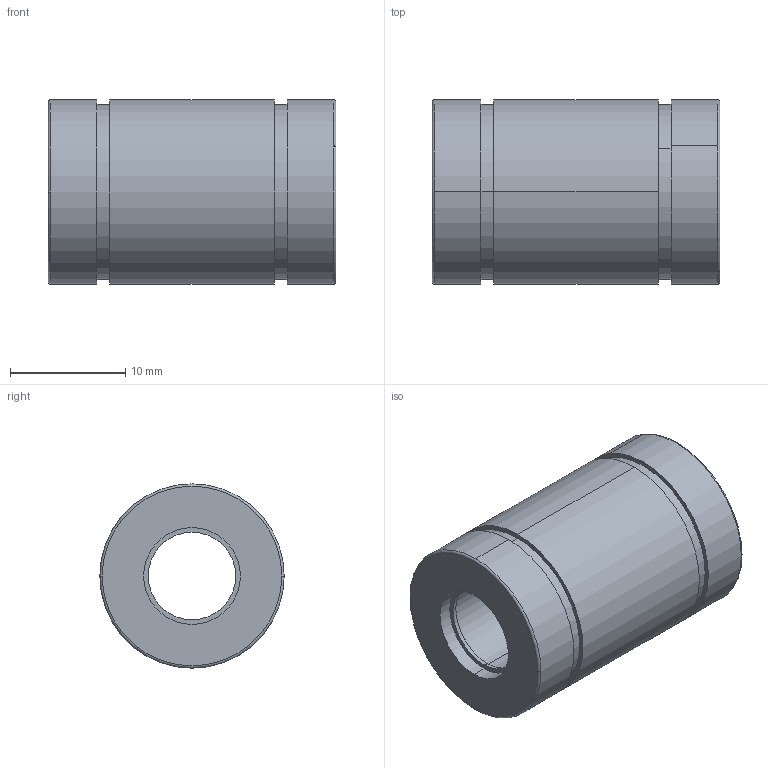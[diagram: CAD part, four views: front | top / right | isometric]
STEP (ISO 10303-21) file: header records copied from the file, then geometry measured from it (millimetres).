
FILE_DESCRIPTION (( 'STEP AP214' ), '1' );
FILE_NAME ('2.7020 Lineaarilaakeri LME8UU.STEP', '2024-06-17T10:11:27', ( '' ), ( '' ), 'SwSTEP 2.0', 'SolidWorks 2024', '' );
FILE_SCHEMA (( 'AUTOMOTIVE_DESIGN' ));
Length unit declared in the file: millimetre
Products named in the file (1): 2.7020 Lineaarilaakeri LME8UU
Bounding box: 25 x 16 x 16 mm (x, y, z)
Volume: 3716.5 mm3; surface area: 2423.9 mm2
Topology: 1 solids, 1 shells, 46 faces, 96 edges, 64 vertices
Faces by surface type: cylinder 24, plane 14, torus 4, cone 4
Entity records: 1295 total; most frequent: DIRECTION 258, CARTESIAN_POINT 207, ORIENTED_EDGE 192, AXIS2_PLACEMENT_3D 115, EDGE_CURVE 96, CIRCLE 68, VERTEX_POINT 64, EDGE_LOOP 60
